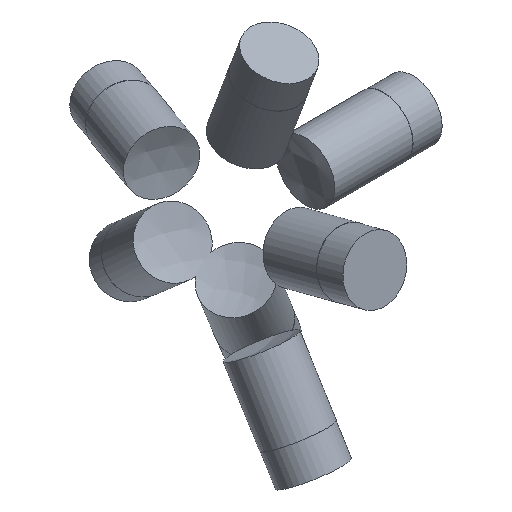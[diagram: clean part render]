
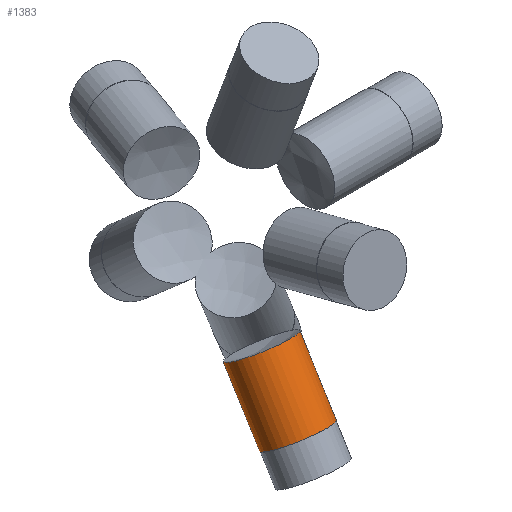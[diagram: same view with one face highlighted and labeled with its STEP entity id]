
A CAD part, isometric view. The second image highlights one B-rep face of the part: STEP entity #1383.
In plain terms, the highlighted cylindrical face has radius 6 mm (diameter 12 mm), a full revolution.
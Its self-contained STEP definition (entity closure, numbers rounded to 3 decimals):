
#33 = SPHERICAL_SURFACE('',#34,20.);
#34 = AXIS2_PLACEMENT_3D('',#35,#36,#37);
#35 = CARTESIAN_POINT('',(0.,0.,0.));
#36 = DIRECTION('',(0.,0.,1.));
#37 = DIRECTION('',(1.,0.,-0.));
#691 = EDGE_CURVE('',#692,#692,#694,.T.);
#692 = VERTEX_POINT('',#693);
#693 = CARTESIAN_POINT('',(-0.563,-15.62,
    -12.478));
#694 = SURFACE_CURVE('',#695,(#700,#783),.PCURVE_S1.);
#695 = CIRCLE('',#696,6.);
#696 = AXIS2_PLACEMENT_3D('',#697,#698,#699);
#697 = CARTESIAN_POINT('',(-0.563,-10.641,
    -15.826));
#698 = DIRECTION('',(-0.03,-0.558,-0.829
    ));
#699 = DIRECTION('',(0.,0.83,-0.558)
  );
#700 = PCURVE('',#33,#701);
#701 = DEFINITIONAL_REPRESENTATION('',(#702),#782);
#702 = B_SPLINE_CURVE_WITH_KNOTS('',8,(#703,#704,#705,#706,#707,#708,
    #709,#710,#711,#712,#713,#714,#715,#716,#717,#718,#719,#720,#721,
    #722,#723,#724,#725,#726,#727,#728,#729,#730,#731,#732,#733,#734,
    #735,#736,#737,#738,#739,#740,#741,#742,#743,#744,#745,#746,#747,
    #748,#749,#750,#751,#752,#753,#754,#755,#756,#757,#758,#759,#760,
    #761,#762,#763,#764,#765,#766,#767,#768,#769,#770,#771,#772,#773,
    #774,#775,#776,#777,#778,#779,#780,#781),.UNSPECIFIED.,.T.,.F.,(9,7,
    7,7,7,7,7,7,7,7,7,9),(3.142,3.927,4.614,
    5.216,5.742,5.972,6.403,
    6.781,7.112,7.69,8.557,
    9.425),.UNSPECIFIED.);
#703 = CARTESIAN_POINT('',(4.676,-0.674));
#704 = CARTESIAN_POINT('',(4.639,-0.673));
#705 = CARTESIAN_POINT('',(4.601,-0.674));
#706 = CARTESIAN_POINT('',(4.563,-0.678));
#707 = CARTESIAN_POINT('',(4.526,-0.684));
#708 = CARTESIAN_POINT('',(4.489,-0.693));
#709 = CARTESIAN_POINT('',(4.453,-0.703));
#710 = CARTESIAN_POINT('',(4.418,-0.716));
#711 = CARTESIAN_POINT('',(4.354,-0.744));
#712 = CARTESIAN_POINT('',(4.325,-0.759));
#713 = CARTESIAN_POINT('',(4.297,-0.775));
#714 = CARTESIAN_POINT('',(4.27,-0.793));
#715 = CARTESIAN_POINT('',(4.245,-0.811));
#716 = CARTESIAN_POINT('',(4.22,-0.832));
#717 = CARTESIAN_POINT('',(4.198,-0.853));
#718 = CARTESIAN_POINT('',(4.16,-0.894));
#719 = CARTESIAN_POINT('',(4.144,-0.915));
#720 = CARTESIAN_POINT('',(4.129,-0.936));
#721 = CARTESIAN_POINT('',(4.117,-0.957));
#722 = CARTESIAN_POINT('',(4.106,-0.979));
#723 = CARTESIAN_POINT('',(4.099,-1.001));
#724 = CARTESIAN_POINT('',(4.094,-1.024));
#725 = CARTESIAN_POINT('',(4.092,-1.066));
#726 = CARTESIAN_POINT('',(4.093,-1.086));
#727 = CARTESIAN_POINT('',(4.098,-1.105));
#728 = CARTESIAN_POINT('',(4.107,-1.125));
#729 = CARTESIAN_POINT('',(4.119,-1.144));
#730 = CARTESIAN_POINT('',(4.137,-1.163));
#731 = CARTESIAN_POINT('',(4.16,-1.18));
#732 = CARTESIAN_POINT('',(4.201,-1.204));
#733 = CARTESIAN_POINT('',(4.215,-1.211));
#734 = CARTESIAN_POINT('',(4.23,-1.218));
#735 = CARTESIAN_POINT('',(4.246,-1.225));
#736 = CARTESIAN_POINT('',(4.264,-1.231));
#737 = CARTESIAN_POINT('',(4.283,-1.237));
#738 = CARTESIAN_POINT('',(4.303,-1.243));
#739 = CARTESIAN_POINT('',(4.365,-1.258));
#740 = CARTESIAN_POINT('',(4.41,-1.267));
#741 = CARTESIAN_POINT('',(4.459,-1.274));
#742 = CARTESIAN_POINT('',(4.512,-1.279));
#743 = CARTESIAN_POINT('',(4.569,-1.283));
#744 = CARTESIAN_POINT('',(4.626,-1.284));
#745 = CARTESIAN_POINT('',(4.684,-1.284));
#746 = CARTESIAN_POINT('',(4.789,-1.279));
#747 = CARTESIAN_POINT('',(4.837,-1.275));
#748 = CARTESIAN_POINT('',(4.883,-1.27));
#749 = CARTESIAN_POINT('',(4.925,-1.264));
#750 = CARTESIAN_POINT('',(4.965,-1.257));
#751 = CARTESIAN_POINT('',(5.001,-1.248));
#752 = CARTESIAN_POINT('',(5.033,-1.238));
#753 = CARTESIAN_POINT('',(5.087,-1.219));
#754 = CARTESIAN_POINT('',(5.11,-1.209));
#755 = CARTESIAN_POINT('',(5.13,-1.199));
#756 = CARTESIAN_POINT('',(5.147,-1.189));
#757 = CARTESIAN_POINT('',(5.162,-1.178));
#758 = CARTESIAN_POINT('',(5.175,-1.166));
#759 = CARTESIAN_POINT('',(5.186,-1.155));
#760 = CARTESIAN_POINT('',(5.212,-1.122));
#761 = CARTESIAN_POINT('',(5.222,-1.101));
#762 = CARTESIAN_POINT('',(5.228,-1.079));
#763 = CARTESIAN_POINT('',(5.23,-1.058));
#764 = CARTESIAN_POINT('',(5.228,-1.036));
#765 = CARTESIAN_POINT('',(5.224,-1.014));
#766 = CARTESIAN_POINT('',(5.217,-0.993));
#767 = CARTESIAN_POINT('',(5.193,-0.94));
#768 = CARTESIAN_POINT('',(5.174,-0.91));
#769 = CARTESIAN_POINT('',(5.15,-0.88));
#770 = CARTESIAN_POINT('',(5.123,-0.852));
#771 = CARTESIAN_POINT('',(5.094,-0.826));
#772 = CARTESIAN_POINT('',(5.062,-0.802));
#773 = CARTESIAN_POINT('',(5.028,-0.779));
#774 = CARTESIAN_POINT('',(4.957,-0.74));
#775 = CARTESIAN_POINT('',(4.92,-0.722));
#776 = CARTESIAN_POINT('',(4.881,-0.707));
#777 = CARTESIAN_POINT('',(4.841,-0.695));
#778 = CARTESIAN_POINT('',(4.801,-0.685));
#779 = CARTESIAN_POINT('',(4.759,-0.679));
#780 = CARTESIAN_POINT('',(4.718,-0.675));
#781 = CARTESIAN_POINT('',(4.676,-0.674));
#782 = ( GEOMETRIC_REPRESENTATION_CONTEXT(2) 
PARAMETRIC_REPRESENTATION_CONTEXT() REPRESENTATION_CONTEXT('2D SPACE',''
  ) );
#783 = PCURVE('',#784,#789);
#784 = CYLINDRICAL_SURFACE('',#785,6.);
#785 = AXIS2_PLACEMENT_3D('',#786,#787,#788);
#786 = CARTESIAN_POINT('',(0.,0.,0.));
#787 = DIRECTION('',(-0.03,-0.558,-0.829
    ));
#788 = DIRECTION('',(0.,-0.83,0.558)
  );
#789 = DEFINITIONAL_REPRESENTATION('',(#790),#794);
#790 = LINE('',#791,#792);
#791 = CARTESIAN_POINT('',(-3.142,19.079));
#792 = VECTOR('',#793,1.);
#793 = DIRECTION('',(1.,0.));
#794 = ( GEOMETRIC_REPRESENTATION_CONTEXT(2) 
PARAMETRIC_REPRESENTATION_CONTEXT() REPRESENTATION_CONTEXT('2D SPACE',''
  ) );
#1383 = ADVANCED_FACE('',(#1384),#784,.T.);
#1384 = FACE_BOUND('',#1385,.T.);
#1385 = EDGE_LOOP('',(#1386,#1409,#1436,#1437));
#1386 = ORIENTED_EDGE('',*,*,#1387,.T.);
#1387 = EDGE_CURVE('',#692,#1388,#1390,.T.);
#1388 = VERTEX_POINT('',#1389);
#1389 = CARTESIAN_POINT('',(-0.98,-23.504,
    -24.203));
#1390 = SEAM_CURVE('',#1391,(#1395,#1402),.PCURVE_S1.);
#1391 = LINE('',#1392,#1393);
#1392 = CARTESIAN_POINT('',(0.,-4.979,
    3.348));
#1393 = VECTOR('',#1394,1.);
#1394 = DIRECTION('',(-0.03,-0.558,
    -0.829));
#1395 = PCURVE('',#784,#1396);
#1396 = DEFINITIONAL_REPRESENTATION('',(#1397),#1401);
#1397 = LINE('',#1398,#1399);
#1398 = CARTESIAN_POINT('',(6.283,-0.));
#1399 = VECTOR('',#1400,1.);
#1400 = DIRECTION('',(0.,1.));
#1401 = ( GEOMETRIC_REPRESENTATION_CONTEXT(2) 
PARAMETRIC_REPRESENTATION_CONTEXT() REPRESENTATION_CONTEXT('2D SPACE',''
  ) );
#1402 = PCURVE('',#784,#1403);
#1403 = DEFINITIONAL_REPRESENTATION('',(#1404),#1408);
#1404 = LINE('',#1405,#1406);
#1405 = CARTESIAN_POINT('',(0.,-0.));
#1406 = VECTOR('',#1407,1.);
#1407 = DIRECTION('',(0.,1.));
#1408 = ( GEOMETRIC_REPRESENTATION_CONTEXT(2) 
PARAMETRIC_REPRESENTATION_CONTEXT() REPRESENTATION_CONTEXT('2D SPACE',''
  ) );
#1409 = ORIENTED_EDGE('',*,*,#1410,.F.);
#1410 = EDGE_CURVE('',#1388,#1388,#1411,.T.);
#1411 = SURFACE_CURVE('',#1412,(#1417,#1424),.PCURVE_S1.);
#1412 = CIRCLE('',#1413,6.);
#1413 = AXIS2_PLACEMENT_3D('',#1414,#1415,#1416);
#1414 = CARTESIAN_POINT('',(-0.98,-18.525,
    -27.55));
#1415 = DIRECTION('',(-0.03,-0.558,
    -0.829));
#1416 = DIRECTION('',(0.,-0.83,0.558
    ));
#1417 = PCURVE('',#784,#1418);
#1418 = DEFINITIONAL_REPRESENTATION('',(#1419),#1423);
#1419 = LINE('',#1420,#1421);
#1420 = CARTESIAN_POINT('',(0.,33.214));
#1421 = VECTOR('',#1422,1.);
#1422 = DIRECTION('',(1.,0.));
#1423 = ( GEOMETRIC_REPRESENTATION_CONTEXT(2) 
PARAMETRIC_REPRESENTATION_CONTEXT() REPRESENTATION_CONTEXT('2D SPACE',''
  ) );
#1424 = PCURVE('',#1425,#1430);
#1425 = PLANE('',#1426);
#1426 = AXIS2_PLACEMENT_3D('',#1427,#1428,#1429);
#1427 = CARTESIAN_POINT('',(-0.98,-18.525,
    -27.55));
#1428 = DIRECTION('',(-0.03,-0.558,
    -0.829));
#1429 = DIRECTION('',(0.,-0.83,0.558
    ));
#1430 = DEFINITIONAL_REPRESENTATION('',(#1431),#1435);
#1431 = CIRCLE('',#1432,6.);
#1432 = AXIS2_PLACEMENT_2D('',#1433,#1434);
#1433 = CARTESIAN_POINT('',(0.,0.));
#1434 = DIRECTION('',(1.,0.));
#1435 = ( GEOMETRIC_REPRESENTATION_CONTEXT(2) 
PARAMETRIC_REPRESENTATION_CONTEXT() REPRESENTATION_CONTEXT('2D SPACE',''
  ) );
#1436 = ORIENTED_EDGE('',*,*,#1387,.F.);
#1437 = ORIENTED_EDGE('',*,*,#691,.T.);
